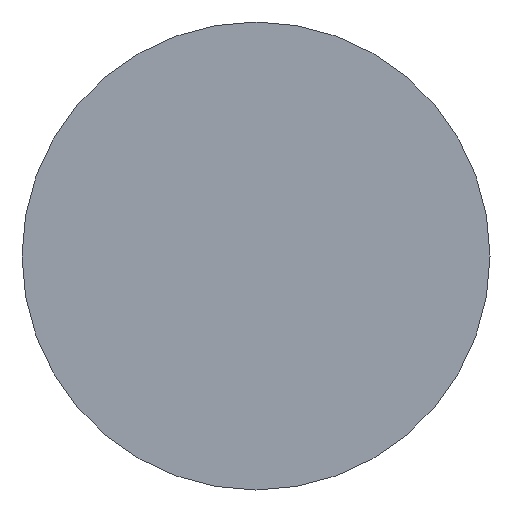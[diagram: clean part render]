
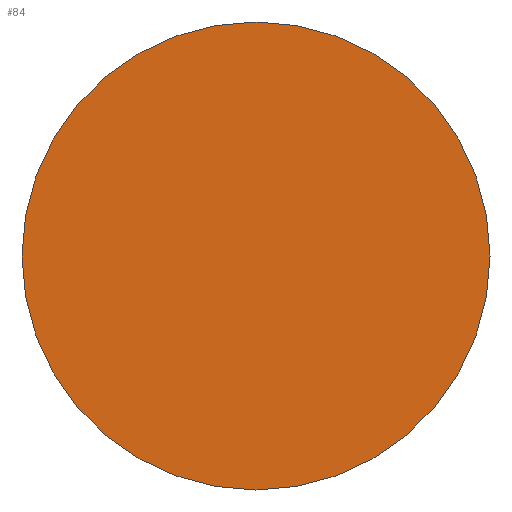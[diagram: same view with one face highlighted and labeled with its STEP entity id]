
A CAD part, left-side view. The second image highlights one B-rep face of the part: STEP entity #84.
In plain terms, the highlighted planar face has unit normal (-1, 0, 0).
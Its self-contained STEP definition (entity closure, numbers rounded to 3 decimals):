
#7 = AXIS2_PLACEMENT_3D ( 'NONE', #58, #43, #107 ) ;
#16 = CIRCLE ( 'NONE', #7, 4.5 ) ;
#43 = DIRECTION ( 'NONE',  ( -1., 0., 0. ) ) ;
#58 = CARTESIAN_POINT ( 'NONE',  ( 0., 0., 0. ) ) ;
#73 = PLANE ( 'NONE',  #255 ) ;
#84 = ADVANCED_FACE ( 'NONE', ( #130 ), #73, .F. ) ;
#90 = VERTEX_POINT ( 'NONE', #161 ) ;
#99 = ORIENTED_EDGE ( 'NONE', *, *, #286, .T. ) ;
#107 = DIRECTION ( 'NONE',  ( 0., 0., 1. ) ) ;
#115 = DIRECTION ( 'NONE',  ( 0., 0., 1. ) ) ;
#120 = EDGE_LOOP ( 'NONE', ( #254, #99 ) ) ;
#130 = FACE_OUTER_BOUND ( 'NONE', #120, .T. ) ;
#136 = DIRECTION ( 'NONE',  ( 1., 0., 0. ) ) ;
#149 = VERTEX_POINT ( 'NONE', #234 ) ;
#161 = CARTESIAN_POINT ( 'NONE',  ( 0., 0., -4.5 ) ) ;
#168 = CARTESIAN_POINT ( 'NONE',  ( 0., 0., 0. ) ) ;
#180 = EDGE_CURVE ( 'NONE', #149, #90, #16, .T. ) ;
#182 = CARTESIAN_POINT ( 'NONE',  ( 0., 0., 0. ) ) ;
#206 = AXIS2_PLACEMENT_3D ( 'NONE', #168, #209, #115 ) ;
#209 = DIRECTION ( 'NONE',  ( -1., 0., 0. ) ) ;
#226 = DIRECTION ( 'NONE',  ( 0., 0., -1. ) ) ;
#234 = CARTESIAN_POINT ( 'NONE',  ( 0., 0., 4.5 ) ) ;
#254 = ORIENTED_EDGE ( 'NONE', *, *, #180, .T. ) ;
#255 = AXIS2_PLACEMENT_3D ( 'NONE', #182, #136, #226 ) ;
#258 = CIRCLE ( 'NONE', #206, 4.5 ) ;
#286 = EDGE_CURVE ( 'NONE', #90, #149, #258, .T. ) ;
